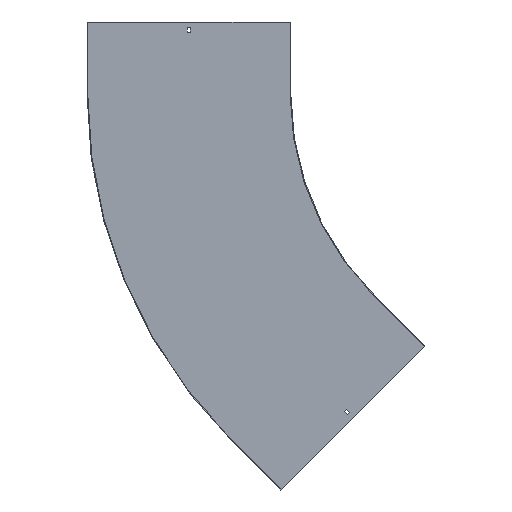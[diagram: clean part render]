
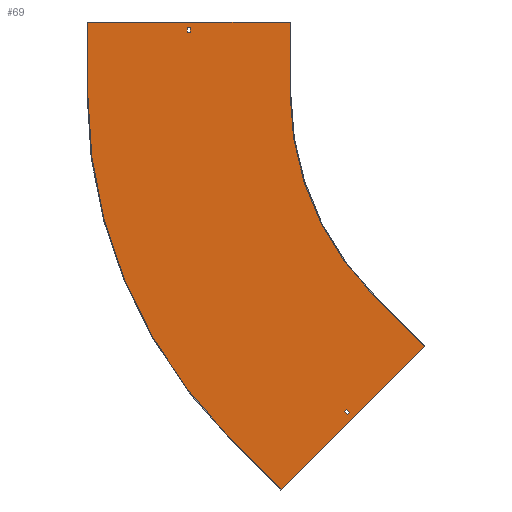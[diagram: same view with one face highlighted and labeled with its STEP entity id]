
A CAD part, front view. The second image highlights one B-rep face of the part: STEP entity #69.
In plain terms, the highlighted planar face has unit normal (0, -1, 0).
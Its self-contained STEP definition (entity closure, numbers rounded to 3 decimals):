
#5 = CARTESIAN_POINT ( 'NONE',  ( -590., -1.5, 0. ) ) ;
#14 = EDGE_CURVE ( 'NONE', #652, #731, #502, .T. ) ;
#15 = CARTESIAN_POINT ( 'NONE',  ( -567.984, -1.5, -567.984 ) ) ;
#16 = CARTESIAN_POINT ( 'NONE',  ( -803.25, -1.5, 0. ) ) ;
#19 = DIRECTION ( 'NONE',  ( 0.707, 0., -0.707 ) ) ;
#21 = EDGE_CURVE ( 'NONE', #311, #804, #37, .T. ) ;
#27 = CARTESIAN_POINT ( 'NONE',  ( -1010., -1.5, 0. ) ) ;
#37 = LINE ( 'NONE', #160, #604 ) ;
#44 = CARTESIAN_POINT ( 'NONE',  ( -1010., -1.5, 150. ) ) ;
#45 = VERTEX_POINT ( 'NONE', #836 ) ;
#52 = DIRECTION ( 'NONE',  ( -0.707, 0., -0.707 ) ) ;
#61 = DIRECTION ( 'NONE',  ( 0.707, 0., 0.707 ) ) ;
#69 = ADVANCED_FACE ( 'NONE', ( #457, #396, #842 ), #331, .T. ) ;
#88 = LINE ( 'NONE', #15, #322 ) ;
#99 = EDGE_CURVE ( 'NONE', #225, #155, #638, .T. ) ;
#101 = ORIENTED_EDGE ( 'NONE', *, *, #846, .F. ) ;
#102 = VECTOR ( 'NONE', #498, 1000. ) ;
#113 = CARTESIAN_POINT ( 'NONE',  ( 91.217, -1.5, -91.217 ) ) ;
#114 = EDGE_LOOP ( 'NONE', ( #579, #144, #268, #687, #491, #805, #101, #379 ) ) ;
#124 = ORIENTED_EDGE ( 'NONE', *, *, #401, .T. ) ;
#131 = DIRECTION ( 'NONE',  ( -0.707, 0., 0.707 ) ) ;
#133 = ORIENTED_EDGE ( 'NONE', *, *, #453, .F. ) ;
#144 = ORIENTED_EDGE ( 'NONE', *, *, #243, .F. ) ;
#155 = VERTEX_POINT ( 'NONE', #5 ) ;
#157 = CARTESIAN_POINT ( 'NONE',  ( -803.25, -1.5, 138. ) ) ;
#158 = CARTESIAN_POINT ( 'NONE',  ( -714.178, -1.5, -714.178 ) ) ;
#159 = VECTOR ( 'NONE', #628, 1000. ) ;
#160 = CARTESIAN_POINT ( 'NONE',  ( -608.112, -1.5, -820.244 ) ) ;
#167 = VERTEX_POINT ( 'NONE', #736 ) ;
#170 = CARTESIAN_POINT ( 'NONE',  ( -417.193, -1.5, -417.193 ) ) ;
#174 = VERTEX_POINT ( 'NONE', #505 ) ;
#175 = EDGE_CURVE ( 'NONE', #615, #174, #841, .T. ) ;
#177 = VECTOR ( 'NONE', #464, 1000. ) ;
#179 = VERTEX_POINT ( 'NONE', #44 ) ;
#181 = CARTESIAN_POINT ( 'NONE',  ( -590., -1.5, 150. ) ) ;
#187 = DIRECTION ( 'NONE',  ( 0., 0., -1. ) ) ;
#193 = AXIS2_PLACEMENT_3D ( 'NONE', #718, #777, #252 ) ;
#210 = LINE ( 'NONE', #228, #102 ) ;
#219 = EDGE_LOOP ( 'NONE', ( #760, #520, #133, #449 ) ) ;
#225 = VERTEX_POINT ( 'NONE', #181 ) ;
#228 = CARTESIAN_POINT ( 'NONE',  ( -796.75, -1.5, 0. ) ) ;
#235 = EDGE_CURVE ( 'NONE', #465, #538, #451, .T. ) ;
#238 = CIRCLE ( 'NONE', #644, 590. ) ;
#243 = EDGE_CURVE ( 'NONE', #530, #179, #717, .T. ) ;
#252 = DIRECTION ( 'NONE',  ( 0., 0., -1. ) ) ;
#255 = CARTESIAN_POINT ( 'NONE',  ( -803.25, -1.5, 129. ) ) ;
#267 = LINE ( 'NONE', #523, #446 ) ;
#268 = ORIENTED_EDGE ( 'NONE', *, *, #274, .F. ) ;
#274 = EDGE_CURVE ( 'NONE', #804, #530, #350, .T. ) ;
#276 = LINE ( 'NONE', #734, #511 ) ;
#279 = VECTOR ( 'NONE', #553, 1000. ) ;
#285 = DIRECTION ( 'NONE',  ( 0., -1., 0. ) ) ;
#288 = CARTESIAN_POINT ( 'NONE',  ( 0., -1.5, 0. ) ) ;
#294 = VECTOR ( 'NONE', #330, 1000. ) ;
#305 = DIRECTION ( 'NONE',  ( -0.707, 0., 0.707 ) ) ;
#311 = VERTEX_POINT ( 'NONE', #328 ) ;
#322 = VECTOR ( 'NONE', #19, 1000. ) ;
#324 = CARTESIAN_POINT ( 'NONE',  ( -590., -1.5, 150. ) ) ;
#328 = CARTESIAN_POINT ( 'NONE',  ( -608.112, -1.5, -820.244 ) ) ;
#330 = DIRECTION ( 'NONE',  ( 0., 0., 1. ) ) ;
#331 = PLANE ( 'NONE',  #193 ) ;
#350 = CIRCLE ( 'NONE', #405, 1010. ) ;
#351 = CARTESIAN_POINT ( 'NONE',  ( -1011.5, -1.5, 150. ) ) ;
#354 = CARTESIAN_POINT ( 'NONE',  ( 0., -1.5, 129. ) ) ;
#365 = LINE ( 'NONE', #351, #786 ) ;
#379 = ORIENTED_EDGE ( 'NONE', *, *, #99, .F. ) ;
#394 = CARTESIAN_POINT ( 'NONE',  ( -563.387, -1.5, -563.387 ) ) ;
#395 = CARTESIAN_POINT ( 'NONE',  ( -1010., -1.5, 0. ) ) ;
#396 = FACE_OUTER_BOUND ( 'NONE', #114, .T. ) ;
#401 = EDGE_CURVE ( 'NONE', #167, #609, #686, .T. ) ;
#405 = AXIS2_PLACEMENT_3D ( 'NONE', #600, #724, #518 ) ;
#419 = LINE ( 'NONE', #16, #719 ) ;
#420 = VECTOR ( 'NONE', #131, 1000. ) ;
#431 = CARTESIAN_POINT ( 'NONE',  ( -470.403, -1.5, -665.564 ) ) ;
#433 = DIRECTION ( 'NONE',  ( 1., 0., 0. ) ) ;
#434 = VECTOR ( 'NONE', #770, 1000. ) ;
#446 = VECTOR ( 'NONE', #52, 1000. ) ;
#449 = ORIENTED_EDGE ( 'NONE', *, *, #175, .F. ) ;
#451 = LINE ( 'NONE', #776, #177 ) ;
#453 = EDGE_CURVE ( 'NONE', #174, #501, #88, .T. ) ;
#457 = FACE_BOUND ( 'NONE', #219, .T. ) ;
#464 = DIRECTION ( 'NONE',  ( 1., 0., 0. ) ) ;
#465 = VERTEX_POINT ( 'NONE', #157 ) ;
#477 = LINE ( 'NONE', #394, #420 ) ;
#488 = DIRECTION ( 'NONE',  ( 0., 0., -1. ) ) ;
#491 = ORIENTED_EDGE ( 'NONE', *, *, #671, .F. ) ;
#494 = EDGE_CURVE ( 'NONE', #538, #167, #210, .T. ) ;
#498 = DIRECTION ( 'NONE',  ( 0., 0., -1. ) ) ;
#501 = VERTEX_POINT ( 'NONE', #431 ) ;
#502 = LINE ( 'NONE', #170, #159 ) ;
#505 = CARTESIAN_POINT ( 'NONE',  ( -476.767, -1.5, -659.2 ) ) ;
#511 = VECTOR ( 'NONE', #61, 1000. ) ;
#518 = DIRECTION ( 'NONE',  ( 0., 0., -1. ) ) ;
#520 = ORIENTED_EDGE ( 'NONE', *, *, #590, .F. ) ;
#523 = CARTESIAN_POINT ( 'NONE',  ( -310.066, -1.5, -522.198 ) ) ;
#530 = VERTEX_POINT ( 'NONE', #27 ) ;
#538 = VERTEX_POINT ( 'NONE', #825 ) ;
#553 = DIRECTION ( 'NONE',  ( -1., 0., 0. ) ) ;
#576 = EDGE_LOOP ( 'NONE', ( #665, #645, #124, #826 ) ) ;
#579 = ORIENTED_EDGE ( 'NONE', *, *, #738, .F. ) ;
#590 = EDGE_CURVE ( 'NONE', #501, #45, #276, .T. ) ;
#600 = CARTESIAN_POINT ( 'NONE',  ( 0., -1.5, 0. ) ) ;
#604 = VECTOR ( 'NONE', #305, 1000. ) ;
#609 = VERTEX_POINT ( 'NONE', #255 ) ;
#615 = VERTEX_POINT ( 'NONE', #722 ) ;
#628 = DIRECTION ( 'NONE',  ( 0.707, 0., -0.707 ) ) ;
#638 = LINE ( 'NONE', #324, #839 ) ;
#644 = AXIS2_PLACEMENT_3D ( 'NONE', #288, #285, #488 ) ;
#645 = ORIENTED_EDGE ( 'NONE', *, *, #494, .T. ) ;
#652 = VERTEX_POINT ( 'NONE', #663 ) ;
#661 = EDGE_CURVE ( 'NONE', #45, #615, #477, .T. ) ;
#663 = CARTESIAN_POINT ( 'NONE',  ( -417.193, -1.5, -417.193 ) ) ;
#665 = ORIENTED_EDGE ( 'NONE', *, *, #235, .T. ) ;
#671 = EDGE_CURVE ( 'NONE', #731, #311, #267, .T. ) ;
#679 = CARTESIAN_POINT ( 'NONE',  ( -311.127, -1.5, -523.259 ) ) ;
#686 = LINE ( 'NONE', #354, #279 ) ;
#687 = ORIENTED_EDGE ( 'NONE', *, *, #21, .F. ) ;
#717 = LINE ( 'NONE', #395, #294 ) ;
#718 = CARTESIAN_POINT ( 'NONE',  ( 0., -1.5, 0. ) ) ;
#719 = VECTOR ( 'NONE', #751, 1000. ) ;
#722 = CARTESIAN_POINT ( 'NONE',  ( -472.171, -1.5, -654.604 ) ) ;
#724 = DIRECTION ( 'NONE',  ( 0., 1., 0. ) ) ;
#731 = VERTEX_POINT ( 'NONE', #679 ) ;
#734 = CARTESIAN_POINT ( 'NONE',  ( 97.581, -1.5, -97.581 ) ) ;
#736 = CARTESIAN_POINT ( 'NONE',  ( -796.75, -1.5, 129. ) ) ;
#738 = EDGE_CURVE ( 'NONE', #179, #225, #365, .T. ) ;
#751 = DIRECTION ( 'NONE',  ( 0., 0., 1. ) ) ;
#760 = ORIENTED_EDGE ( 'NONE', *, *, #661, .F. ) ;
#770 = DIRECTION ( 'NONE',  ( -0.707, 0., -0.707 ) ) ;
#776 = CARTESIAN_POINT ( 'NONE',  ( 0., -1.5, 138. ) ) ;
#777 = DIRECTION ( 'NONE',  ( 0., -1., 0. ) ) ;
#786 = VECTOR ( 'NONE', #433, 1000. ) ;
#804 = VERTEX_POINT ( 'NONE', #158 ) ;
#805 = ORIENTED_EDGE ( 'NONE', *, *, #14, .F. ) ;
#825 = CARTESIAN_POINT ( 'NONE',  ( -796.75, -1.5, 138. ) ) ;
#826 = ORIENTED_EDGE ( 'NONE', *, *, #851, .T. ) ;
#836 = CARTESIAN_POINT ( 'NONE',  ( -465.807, -1.5, -660.968 ) ) ;
#839 = VECTOR ( 'NONE', #187, 1000. ) ;
#841 = LINE ( 'NONE', #113, #434 ) ;
#842 = FACE_BOUND ( 'NONE', #576, .T. ) ;
#846 = EDGE_CURVE ( 'NONE', #155, #652, #238, .T. ) ;
#851 = EDGE_CURVE ( 'NONE', #609, #465, #419, .T. ) ;
